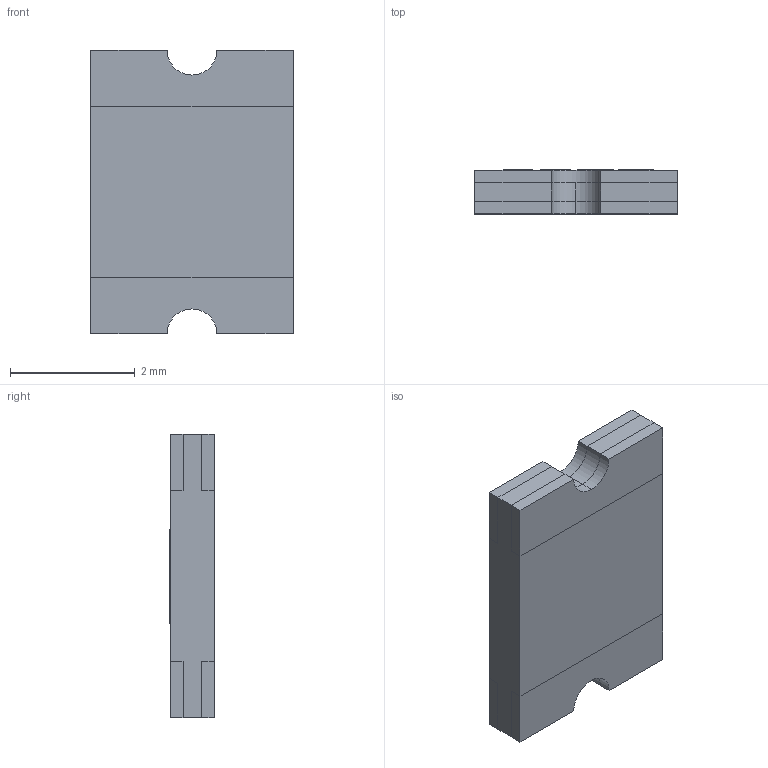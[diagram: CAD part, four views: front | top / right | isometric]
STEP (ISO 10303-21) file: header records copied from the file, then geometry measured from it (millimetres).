
FILE_DESCRIPTION (( 'STEP AP214' ), '1' );
FILE_NAME ('User Library-MF-MSMF075.STEP', '2019-04-30T07:01:21', ( '' ), ( '' ), 'SwSTEP 2.0', 'SolidWorks 2019', '' );
FILE_SCHEMA (( 'AUTOMOTIVE_DESIGN' ));
Length unit declared in the file: millimetre
Products named in the file (1): User Library-MF-MSMF075
Bounding box: 3.24 x 0.71 x 4.55 mm (x, y, z)
Volume: 10 mm3; surface area: 69.6 mm2
Topology: 9 solids, 9 shells, 129 faces, 333 edges, 222 vertices
Faces by surface type: plane 66, bspline 54, cylinder 9
Entity records: 4522 total; most frequent: CARTESIAN_POINT 1273, ORIENTED_EDGE 666, DIRECTION 395, EDGE_CURVE 333, VERTEX_POINT 222, VECTOR 207, LINE 207, ADVANCED_FACE 129
